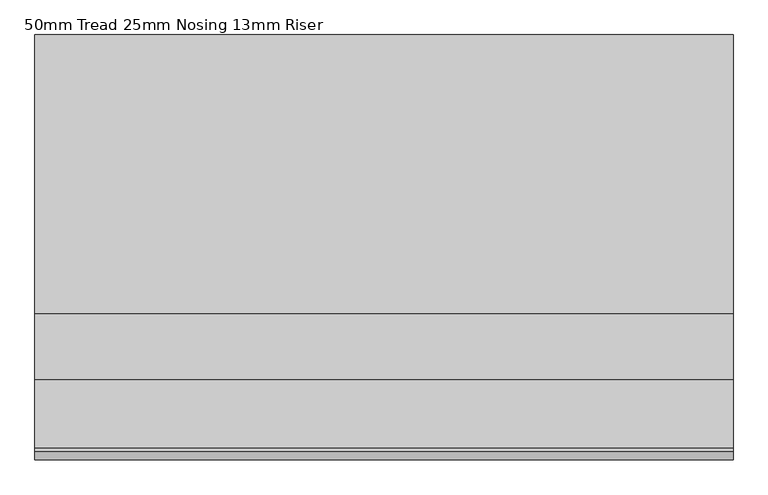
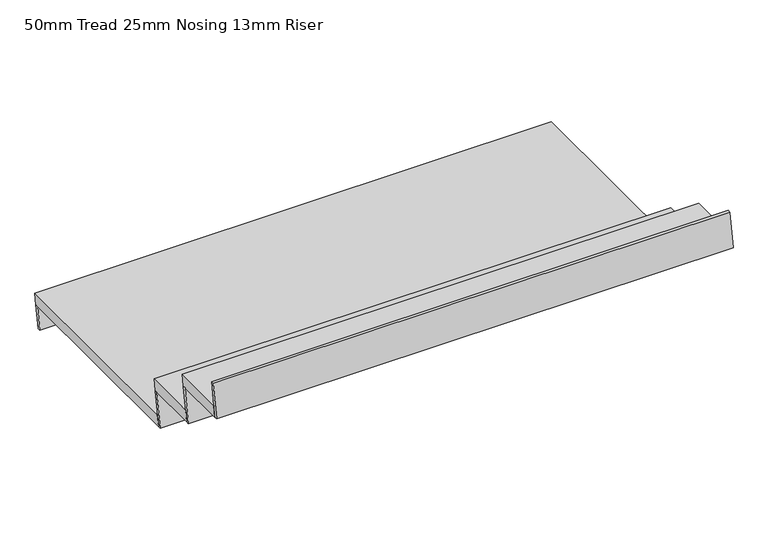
"""IFC4 building model written with IfcOpenShell, lengths in millimetres: stair flight geometry, 50mm Tread 25mm Nosing 13mm Riser."""

from ifc_helpers import new_model, si_unit, frame, origin, place, context, project, spatial, polyline, outline, extrude, source, transform, mapped, element, save


def stair_flight_50mm_tread_25mm_nosing_13mm_riser_be8d0dcb(model_context):
    return source(origin(), model_context, "Body", "SweptSolid", [
        extrude(outline(polyline([(13195.7, -457.2), (14135.1, -457.2), (14126.8979003, -507.2), (13187.4979003, -507.2), (13195.7, -457.2)])), frame((3513.7240582, 0.0, 0.0), z_axis=(1.0, 0.0, 0.0), x_axis=(0.0, 1.0, 0.0)), (0.0, 0.0, 1.0), 2286.0),
        extrude(outline(polyline([(14126.8979003, -507.2), (14110.1, -609.6), (14097.4329304, -609.6), (14114.2308307, -507.2), (14126.8979003, -507.2)])), frame((3513.7240582, 0.0, 0.0), z_axis=(1.0, 0.0, 0.0), x_axis=(0.0, 1.0, 0.0)), (0.0, 0.0, 1.0), 2286.0),
        extrude(outline(polyline([(13212.4979003, -354.8), (13187.4979003, -507.2), (13174.8308307, -507.2), (13199.8308307, -354.8), (13212.4979003, -354.8)])), frame((3513.7240582, 0.0, 0.0), z_axis=(1.0, 0.0, 0.0), x_axis=(0.0, 1.0, 0.0)), (0.0, 0.0, 1.0), 2286.0),
        extrude(outline(polyline([(12979.8, -304.8), (13220.7, -304.8), (13212.4979003, -354.8), (12971.5979003, -354.8), (12979.8, -304.8)])), frame((3513.7240582, 0.0, 0.0), z_axis=(1.0, 0.0, 0.0), x_axis=(0.0, 1.0, 0.0)), (0.0, 0.0, 1.0), 2286.0),
        extrude(outline(polyline([(12996.5979003, -202.4), (12971.5979003, -354.8), (12958.9308307, -354.8), (12983.9308307, -202.4), (12996.5979003, -202.4)])), frame((3513.7240582, 0.0, 0.0), z_axis=(1.0, 0.0, 0.0), x_axis=(0.0, 1.0, 0.0)), (0.0, 0.0, 1.0), 2286.0),
        extrude(outline(polyline([(12780.6979003, -50.0), (12755.6979003, -202.4), (12743.0308307, -202.4), (12768.0308307, -50.0), (12780.6979003, -50.0)])), frame((3513.7240582, 0.0, 0.0), z_axis=(1.0, 0.0, 0.0), x_axis=(0.0, 1.0, 0.0)), (0.0, 0.0, 1.0), 2286.0),
        extrude(outline(polyline([(12763.9, -152.4), (13004.8, -152.4), (12996.5979003, -202.4), (12755.6979003, -202.4), (12763.9, -152.4)])), frame((3513.7240582, 0.0, 0.0), z_axis=(1.0, 0.0, 0.0), x_axis=(0.0, 1.0, 0.0)), (0.0, 0.0, 1.0), 2286.0),
    ])


if __name__ == "__main__":
    model = new_model("IFC4")
    model_context = context("Model", 3, world=origin())
    ifc_project = project(units=[si_unit("LENGTHUNIT", "METRE", prefix="MILLI")], contexts=[model_context])
    site = spatial("IfcSite", under=ifc_project)
    building = spatial("IfcBuilding", under=site)
    placement = place(None, origin())
    stair_flight_50mm_tread_25mm_nosing_13mm_riser_shape = stair_flight_50mm_tread_25mm_nosing_13mm_riser_be8d0dcb(model_context)
    element("IfcStairFlight", 1, ObjectType="50mm Tread 25mm Nosing 13mm Riser", at=placement, inside=building, context=model_context, shape_type="MappedRepresentation", body=[
        mapped(stair_flight_50mm_tread_25mm_nosing_13mm_riser_shape, transform((0.0, 0.0, 0.0), x_axis=(1.0, 0.0, 0.0), y_axis=(0.0, 1.0, 0.0), z_axis=(0.0, 0.0, 1.0))),
    ])
    save(model, "model.ifc")
